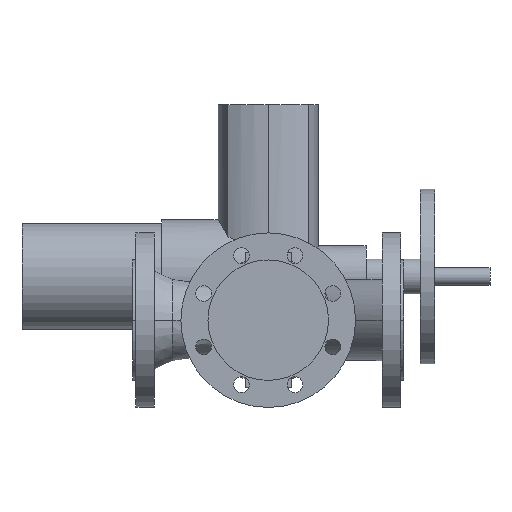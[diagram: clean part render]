
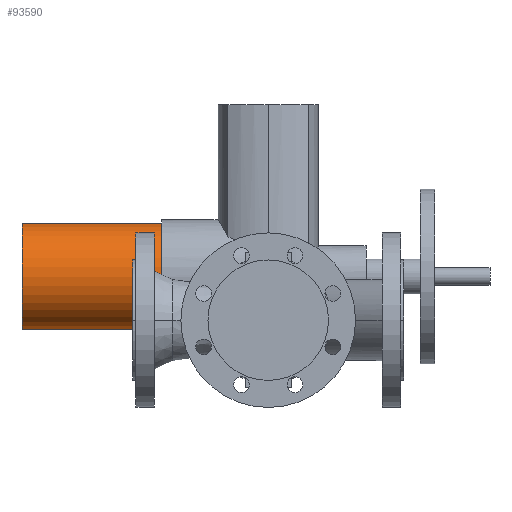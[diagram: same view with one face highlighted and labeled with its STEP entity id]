
A CAD part, front view. The second image highlights one B-rep face of the part: STEP entity #93590.
In plain terms, the highlighted cylindrical face has radius 60.5 mm (diameter 121 mm), a partial arc.
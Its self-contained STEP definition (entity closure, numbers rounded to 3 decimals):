
#52670=CARTESIAN_POINT('',(-47.,506.5,50.));
#52680=DIRECTION('',(1.,0.,0.));
#52690=DIRECTION('',(0.,0.,-1.));
#52700=AXIS2_PLACEMENT_3D('',#52670,#52680,#52690);
#52710=CYLINDRICAL_SURFACE('',#52700,60.5);
#52720=CARTESIAN_POINT('',(-47.,506.5,110.5));
#52730=DIRECTION('',(1.,0.,0.));
#52740=VECTOR('',#52730,1.);
#52750=LINE('',#52720,#52740);
#52760=CARTESIAN_POINT('',(-127.,506.5,110.5));
#52770=VERTEX_POINT('',#52760);
#52780=CARTESIAN_POINT('',(33.,506.5,110.5));
#52790=VERTEX_POINT('',#52780);
#52800=EDGE_CURVE('',#52770,#52790,#52750,.T.);
#52820=CARTESIAN_POINT('',(-127.,506.5,50.));
#52830=DIRECTION('',(-1.,0.,0.));
#52840=DIRECTION('',(0.,0.,-1.));
#52850=AXIS2_PLACEMENT_3D('',#52820,#52830,#52840);
#52860=CIRCLE('',#52850,60.5);
#52870=CARTESIAN_POINT('',(-127.,506.5,-10.5));
#52880=VERTEX_POINT('',#52870);
#52910=CARTESIAN_POINT('',(-47.,506.5,-10.5));
#52920=DIRECTION('',(1.,0.,0.));
#52930=VECTOR('',#52920,1.);
#52940=LINE('',#52910,#52930);
#52950=CARTESIAN_POINT('',(33.,506.5,-10.5));
#52960=VERTEX_POINT('',#52950);
#52970=EDGE_CURVE('',#52880,#52960,#52940,.T.);
#52990=CARTESIAN_POINT('',(33.,506.5,50.));
#53000=DIRECTION('',(-1.,0.,0.));
#53010=DIRECTION('',(0.,0.,-1.));
#53020=AXIS2_PLACEMENT_3D('',#52990,#53000,#53010);
#53030=CIRCLE('',#53020,60.5);
#72210=EDGE_CURVE('',#52960,#52790,#53030,.T.);
#72560=EDGE_CURVE('',#52880,#52770,#52860,.T.);
#93530=ORIENTED_EDGE('',*,*,#52800,.F.);
#93540=ORIENTED_EDGE('',*,*,#72210,.T.);
#93550=ORIENTED_EDGE('',*,*,#52970,.T.);
#93560=ORIENTED_EDGE('',*,*,#72560,.F.);
#93570=EDGE_LOOP('',(#93560,#93550,#93540,#93530));
#93580=FACE_OUTER_BOUND('',#93570,.T.);
#93590=ADVANCED_FACE('',(#93580),#52710,.T.);
